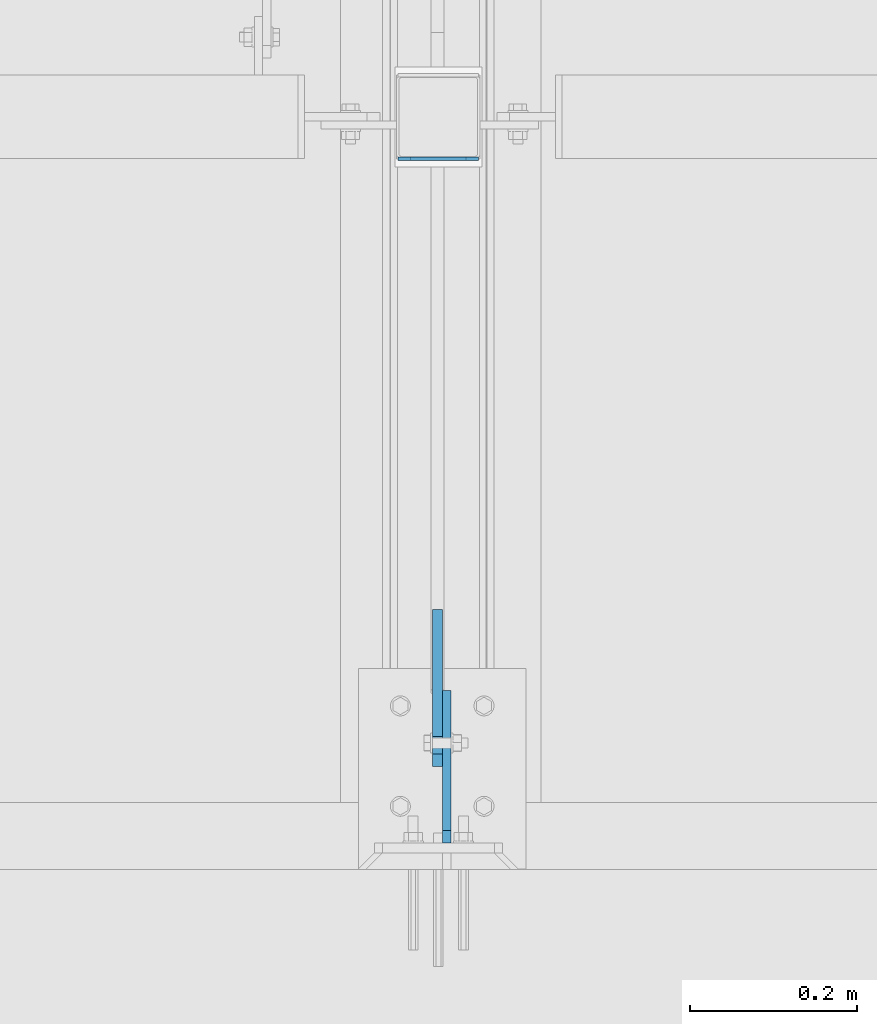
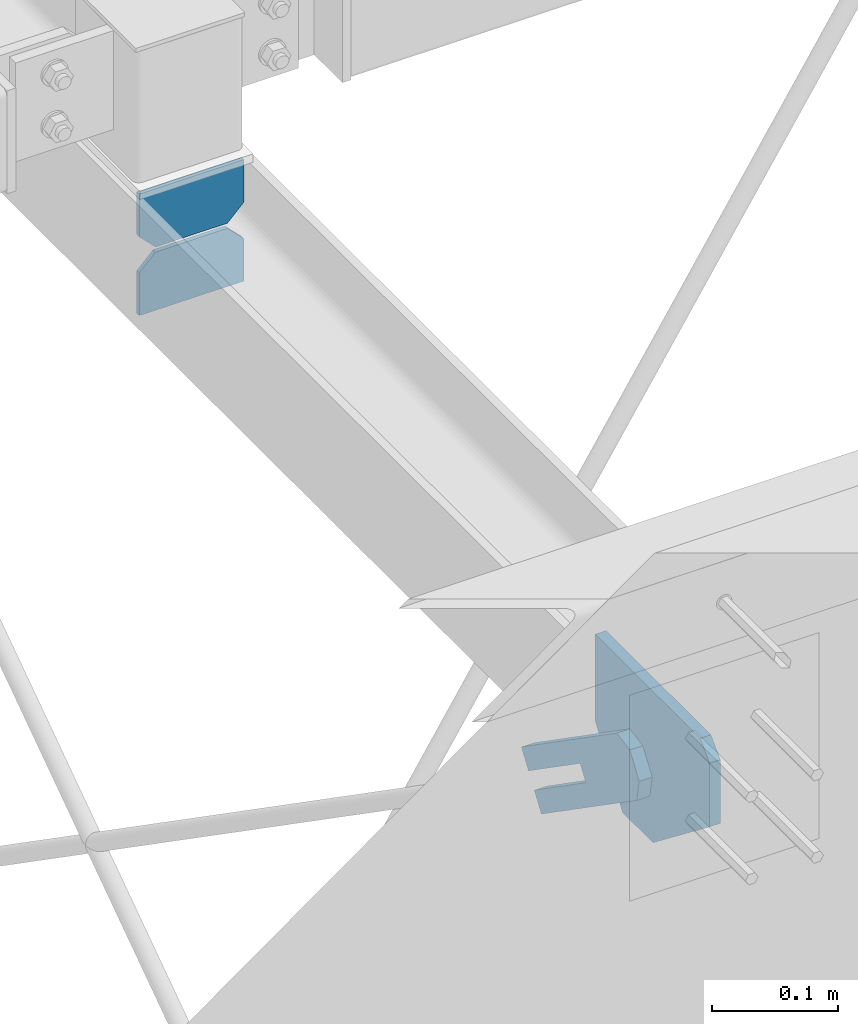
# One storey, part 117 of 271: 4 plates, 2 elements without a shape of their own.
"""IFC2X3 building model written with IfcOpenShell, lengths in millimetres."""

from ifc_helpers import new_model, si_unit, frame, origin_with_axes, place, context, subcontext, project, spatial, polyline, outline, extrude, material, type_object, element, aggregate, save


model = new_model("IFC2X3")

# Units and contexts
model_context = context("Model", 3, precision=1e-05, world=origin_with_axes())
body_context = subcontext(model_context, "Body", "Model", "MODEL_VIEW")
ifc_project = project(units=[si_unit("LENGTHUNIT", "METRE", prefix="MILLI"), si_unit("AREAUNIT", "SQUARE_METRE"), si_unit("VOLUMEUNIT", "CUBIC_METRE"), si_unit("MASSUNIT", "GRAM", prefix="KILO"), si_unit("TIMEUNIT", "SECOND"), si_unit("PLANEANGLEUNIT", "RADIAN"), si_unit("SOLIDANGLEUNIT", "STERADIAN"), si_unit("THERMODYNAMICTEMPERATUREUNIT", "DEGREE_CELSIUS"), si_unit("LUMINOUSINTENSITYUNIT", "LUMEN")], contexts=[model_context])

# Site, building, storey
site_placement = place(None, origin_with_axes())
site = spatial("IfcSite", under=ifc_project, at=site_placement, Name="Undefined", CompositionType="ELEMENT")
building_placement = place(site_placement, origin_with_axes())
building = spatial("IfcBuilding", under=site, at=building_placement, Name="Undefined", CompositionType="ELEMENT")
storey_placement = place(building_placement, origin_with_axes())
storey = spatial("IfcBuildingStorey", under=building, at=storey_placement, Name="Undefined", CompositionType="ELEMENT", Elevation=0.0)

# Assembly, plate
assembly_1_placement = place(storey_placement, origin_with_axes())
assembly_1 = element("IfcElementAssembly", 1, at=assembly_1_placement, inside=storey, AssemblyPlace="NOTDEFINED", PredefinedType="RIGID_FRAME")
ifc_material = material(Name="STEEL/S355JR")
plate_type_1 = type_object("IfcPlateType", Name="BL12*56", PredefinedType="NOTDEFINED")
plate_1_placement = place(assembly_1_placement, frame((6347.37568736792, 126.233232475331, 19897.2992215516), z_axis=(-1.0, 0.0, 1.38777878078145e-17), x_axis=(0.0, -0.177371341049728, 0.984143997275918)))
plate_1 = element("IfcPlate", 2, at=plate_1_placement, type_object=plate_type_1, material=ifc_material, Name="BLACHA", ObjectType="BL12*56", context=body_context, shape_type="SweptSolid", body=[
    extrude(outline(polyline([(0.0, 0.0), (21.2132034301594, 1.09139364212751e-11), (39.5979804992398, 18.3847751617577), (39.5979804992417, 39.5979804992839), (-91.2167739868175, 170.412734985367), (-105.358909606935, 156.270599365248), (-34.6482315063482, 85.5599212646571), (-45.9619407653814, 74.2462158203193), (-116.672622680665, 144.95689392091), (-130.814758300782, 130.814758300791), (0.0, 0.0)])), frame((0.0, 0.0, -6.0), z_axis=(0.0, 0.0, 1.0), x_axis=(1.0, 0.0, 0.0)), (0.0, 0.0, 1.0), 12.0),
])
aggregate(assembly_1, [plate_1])

# Assembly, plates
assembly_2_placement = place(storey_placement, origin_with_axes())
assembly_2 = element("IfcElementAssembly", 3, at=assembly_2_placement, inside=storey, AssemblyPlace="NOTDEFINED", PredefinedType="RIGID_FRAME")
plate_type_2 = type_object("IfcPlateType", Name="BL10*147", PredefinedType="NOTDEFINED")
plate_2_placement = place(assembly_2_placement, frame((6358.37568767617, 31.3249842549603, 20001.8499999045), z_axis=(-1.0, 0.0, 1.38777878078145e-17), x_axis=(0.0, 1.0, 0.0)))
plate_2 = element("IfcPlate", 4, at=plate_2_placement, type_object=plate_type_2, material=ifc_material, Name="BLACHA", ObjectType="BL10*147", context=body_context, shape_type="SweptSolid", body=[
    extrude(outline(polyline([(0.0, 15.0), (15.0, -1.59872115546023e-14), (181.838485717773, -1.4210854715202e-14), (181.838485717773, 84.5724258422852), (138.482421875, 146.992401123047), (90.0, 146.992401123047), (0.0, 76.9924011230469), (0.0, 15.0)])), frame((0.0, 0.0, -5.0), z_axis=(0.0, 0.0, 1.0), x_axis=(1.0, 0.0, 0.0)), (0.0, 0.0, 1.0), 10.0),
])
plate_type_3 = type_object("IfcPlateType", Name="BL4*57", PredefinedType="NOTDEFINED")
plate_3_placement = place(assembly_2_placement, frame((6300.37568709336, 848.924398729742, 19945.3499999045), z_axis=(0.0, 1.0, 0.0), x_axis=(0.0, 0.0, 1.0)))
plate_3 = element("IfcPlate", 5, at=plate_3_placement, type_object=plate_type_3, material=ifc_material, Name="BLACHA", ObjectType="BL4*57", context=body_context, shape_type="SweptSolid", body=[
    extrude(outline(polyline([(0.0, 0.0), (41.5, 0.0), (56.5, 15.0), (56.5, 81.0), (41.5, 96.0), (0.0, 96.0), (0.0, 0.0)])), frame((0.0, 0.0, -2.0), z_axis=(0.0, 0.0, 1.0), x_axis=(1.0, 0.0, 0.0)), (0.0, 0.0, 1.0), 4.0),
])
plate_4_placement = place(assembly_2_placement, frame((6300.37568709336, 848.924398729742, 20006.8499999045), z_axis=(0.0, 1.0, 0.0), x_axis=(0.0, 0.0, 1.0)))
plate_4 = element("IfcPlate", 6, at=plate_4_placement, type_object=plate_type_3, material=ifc_material, Name="BLACHA", ObjectType="BL4*57", context=body_context, shape_type="SweptSolid", body=[
    extrude(outline(polyline([(0.0, 15.0), (15.0, -1.59872115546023e-14), (56.5, -1.77635683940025e-14), (56.5, 96.0000000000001), (15.0, 96.0000000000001), (0.0, 81.0000000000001), (0.0, 15.0)])), frame((0.0, 0.0, -2.0), z_axis=(0.0, 0.0, 1.0), x_axis=(1.0, 0.0, 0.0)), (0.0, 0.0, 1.0), 4.0),
])
aggregate(assembly_2, [plate_2, plate_3, plate_4])

save(model, "model.ifc")
